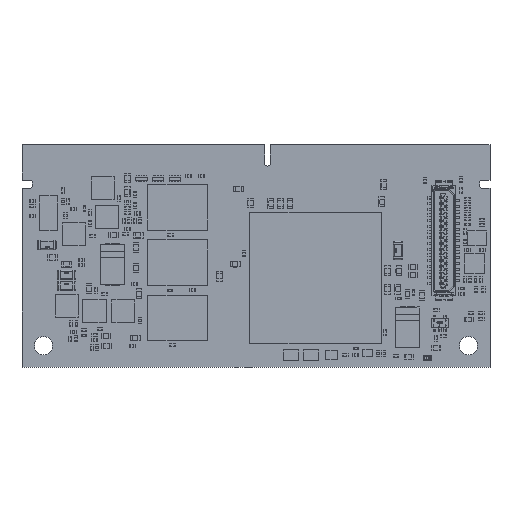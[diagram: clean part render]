
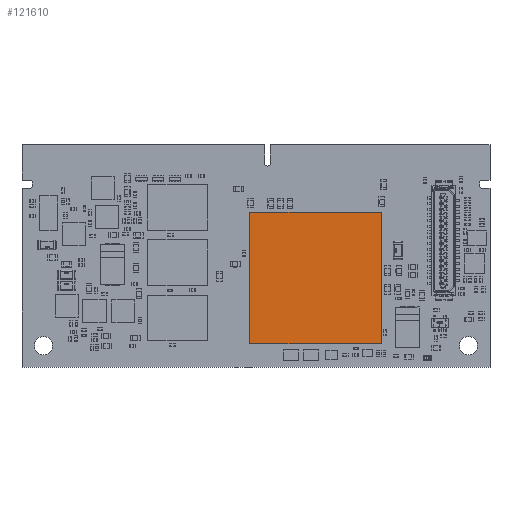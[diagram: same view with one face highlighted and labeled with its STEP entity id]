
A CAD part, top view. The second image highlights one B-rep face of the part: STEP entity #121610.
In plain terms, the highlighted planar face has unit normal (0, 0, 1).
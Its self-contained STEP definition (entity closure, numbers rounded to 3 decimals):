
#121296 = VERTEX_POINT('',#121297);
#121297 = CARTESIAN_POINT('',(11.5,11.5,1.5));
#121304 = PLANE('',#121305);
#121305 = AXIS2_PLACEMENT_3D('',#121306,#121307,#121308);
#121306 = CARTESIAN_POINT('',(11.5,11.5,0.));
#121307 = DIRECTION('',(1.,0.,0.));
#121308 = DIRECTION('',(0.,-1.,0.));
#121316 = PLANE('',#121317);
#121317 = AXIS2_PLACEMENT_3D('',#121318,#121319,#121320);
#121318 = CARTESIAN_POINT('',(-11.5,11.5,0.));
#121319 = DIRECTION('',(0.,1.,0.));
#121320 = DIRECTION('',(1.,0.,0.));
#121328 = EDGE_CURVE('',#121296,#121329,#121331,.T.);
#121329 = VERTEX_POINT('',#121330);
#121330 = CARTESIAN_POINT('',(11.5,-11.5,1.5));
#121331 = SURFACE_CURVE('',#121332,(#121336,#121343),.PCURVE_S1.);
#121332 = LINE('',#121333,#121334);
#121333 = CARTESIAN_POINT('',(11.5,11.5,1.5));
#121334 = VECTOR('',#121335,1.);
#121335 = DIRECTION('',(0.,-1.,0.));
#121336 = PCURVE('',#121304,#121337);
#121337 = DEFINITIONAL_REPRESENTATION('',(#121338),#121342);
#121338 = LINE('',#121339,#121340);
#121339 = CARTESIAN_POINT('',(0.,-1.5));
#121340 = VECTOR('',#121341,1.);
#121341 = DIRECTION('',(1.,0.));
#121342 = ( GEOMETRIC_REPRESENTATION_CONTEXT(2) 
PARAMETRIC_REPRESENTATION_CONTEXT() REPRESENTATION_CONTEXT('2D SPACE',''
  ) );
#121343 = PCURVE('',#121344,#121349);
#121344 = PLANE('',#121345);
#121345 = AXIS2_PLACEMENT_3D('',#121346,#121347,#121348);
#121346 = CARTESIAN_POINT('',(11.5,11.5,1.5));
#121347 = DIRECTION('',(0.,0.,1.));
#121348 = DIRECTION('',(1.,0.,0.));
#121349 = DEFINITIONAL_REPRESENTATION('',(#121350),#121354);
#121350 = LINE('',#121351,#121352);
#121351 = CARTESIAN_POINT('',(0.,0.));
#121352 = VECTOR('',#121353,1.);
#121353 = DIRECTION('',(0.,-1.));
#121354 = ( GEOMETRIC_REPRESENTATION_CONTEXT(2) 
PARAMETRIC_REPRESENTATION_CONTEXT() REPRESENTATION_CONTEXT('2D SPACE',''
  ) );
#121372 = PLANE('',#121373);
#121373 = AXIS2_PLACEMENT_3D('',#121374,#121375,#121376);
#121374 = CARTESIAN_POINT('',(11.5,-11.5,0.));
#121375 = DIRECTION('',(0.,-1.,0.));
#121376 = DIRECTION('',(-1.,0.,0.));
#121414 = EDGE_CURVE('',#121329,#121415,#121417,.T.);
#121415 = VERTEX_POINT('',#121416);
#121416 = CARTESIAN_POINT('',(-11.5,-11.5,1.5));
#121417 = SURFACE_CURVE('',#121418,(#121422,#121429),.PCURVE_S1.);
#121418 = LINE('',#121419,#121420);
#121419 = CARTESIAN_POINT('',(11.5,-11.5,1.5));
#121420 = VECTOR('',#121421,1.);
#121421 = DIRECTION('',(-1.,0.,0.));
#121422 = PCURVE('',#121372,#121423);
#121423 = DEFINITIONAL_REPRESENTATION('',(#121424),#121428);
#121424 = LINE('',#121425,#121426);
#121425 = CARTESIAN_POINT('',(0.,-1.5));
#121426 = VECTOR('',#121427,1.);
#121427 = DIRECTION('',(1.,0.));
#121428 = ( GEOMETRIC_REPRESENTATION_CONTEXT(2) 
PARAMETRIC_REPRESENTATION_CONTEXT() REPRESENTATION_CONTEXT('2D SPACE',''
  ) );
#121429 = PCURVE('',#121344,#121430);
#121430 = DEFINITIONAL_REPRESENTATION('',(#121431),#121435);
#121431 = LINE('',#121432,#121433);
#121432 = CARTESIAN_POINT('',(0.,-23.));
#121433 = VECTOR('',#121434,1.);
#121434 = DIRECTION('',(-1.,0.));
#121435 = ( GEOMETRIC_REPRESENTATION_CONTEXT(2) 
PARAMETRIC_REPRESENTATION_CONTEXT() REPRESENTATION_CONTEXT('2D SPACE',''
  ) );
#121453 = PLANE('',#121454);
#121454 = AXIS2_PLACEMENT_3D('',#121455,#121456,#121457);
#121455 = CARTESIAN_POINT('',(-11.5,-11.5,0.));
#121456 = DIRECTION('',(-1.,0.,0.));
#121457 = DIRECTION('',(0.,1.,0.));
#121490 = EDGE_CURVE('',#121415,#121491,#121493,.T.);
#121491 = VERTEX_POINT('',#121492);
#121492 = CARTESIAN_POINT('',(-11.5,11.5,1.5));
#121493 = SURFACE_CURVE('',#121494,(#121498,#121505),.PCURVE_S1.);
#121494 = LINE('',#121495,#121496);
#121495 = CARTESIAN_POINT('',(-11.5,-11.5,1.5));
#121496 = VECTOR('',#121497,1.);
#121497 = DIRECTION('',(0.,1.,0.));
#121498 = PCURVE('',#121453,#121499);
#121499 = DEFINITIONAL_REPRESENTATION('',(#121500),#121504);
#121500 = LINE('',#121501,#121502);
#121501 = CARTESIAN_POINT('',(0.,-1.5));
#121502 = VECTOR('',#121503,1.);
#121503 = DIRECTION('',(1.,0.));
#121504 = ( GEOMETRIC_REPRESENTATION_CONTEXT(2) 
PARAMETRIC_REPRESENTATION_CONTEXT() REPRESENTATION_CONTEXT('2D SPACE',''
  ) );
#121505 = PCURVE('',#121344,#121506);
#121506 = DEFINITIONAL_REPRESENTATION('',(#121507),#121511);
#121507 = LINE('',#121508,#121509);
#121508 = CARTESIAN_POINT('',(-23.,-23.));
#121509 = VECTOR('',#121510,1.);
#121510 = DIRECTION('',(0.,1.));
#121511 = ( GEOMETRIC_REPRESENTATION_CONTEXT(2) 
PARAMETRIC_REPRESENTATION_CONTEXT() REPRESENTATION_CONTEXT('2D SPACE',''
  ) );
#121561 = EDGE_CURVE('',#121491,#121296,#121562,.T.);
#121562 = SURFACE_CURVE('',#121563,(#121567,#121574),.PCURVE_S1.);
#121563 = LINE('',#121564,#121565);
#121564 = CARTESIAN_POINT('',(-11.5,11.5,1.5));
#121565 = VECTOR('',#121566,1.);
#121566 = DIRECTION('',(1.,0.,0.));
#121567 = PCURVE('',#121316,#121568);
#121568 = DEFINITIONAL_REPRESENTATION('',(#121569),#121573);
#121569 = LINE('',#121570,#121571);
#121570 = CARTESIAN_POINT('',(0.,-1.5));
#121571 = VECTOR('',#121572,1.);
#121572 = DIRECTION('',(1.,0.));
#121573 = ( GEOMETRIC_REPRESENTATION_CONTEXT(2) 
PARAMETRIC_REPRESENTATION_CONTEXT() REPRESENTATION_CONTEXT('2D SPACE',''
  ) );
#121574 = PCURVE('',#121344,#121575);
#121575 = DEFINITIONAL_REPRESENTATION('',(#121576),#121580);
#121576 = LINE('',#121577,#121578);
#121577 = CARTESIAN_POINT('',(-23.,0.));
#121578 = VECTOR('',#121579,1.);
#121579 = DIRECTION('',(1.,0.));
#121580 = ( GEOMETRIC_REPRESENTATION_CONTEXT(2) 
PARAMETRIC_REPRESENTATION_CONTEXT() REPRESENTATION_CONTEXT('2D SPACE',''
  ) );
#121610 = ADVANCED_FACE('',(#121611),#121344,.T.);
#121611 = FACE_BOUND('',#121612,.F.);
#121612 = EDGE_LOOP('',(#121613,#121614,#121615,#121616));
#121613 = ORIENTED_EDGE('',*,*,#121328,.T.);
#121614 = ORIENTED_EDGE('',*,*,#121414,.T.);
#121615 = ORIENTED_EDGE('',*,*,#121490,.T.);
#121616 = ORIENTED_EDGE('',*,*,#121561,.T.);
